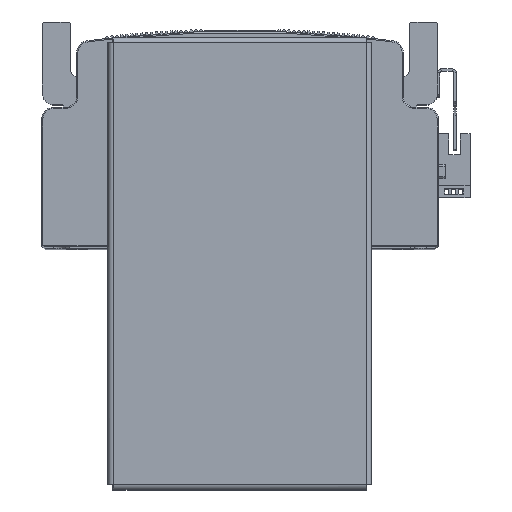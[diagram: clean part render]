
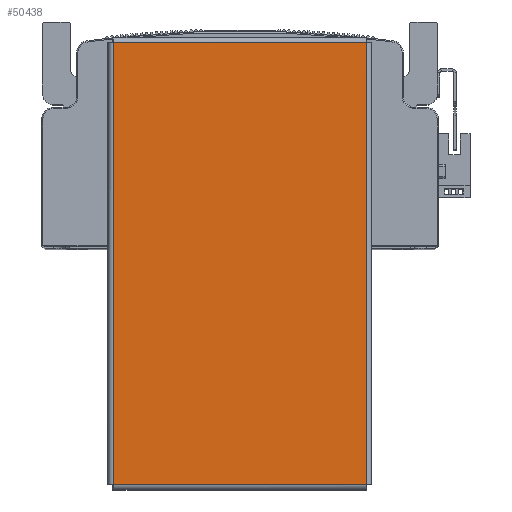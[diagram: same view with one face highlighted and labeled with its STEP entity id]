
A CAD part, top view. The second image highlights one B-rep face of the part: STEP entity #50438.
In plain terms, the highlighted planar face has unit normal (0, 0, 1) as drawn and (0, -1, 0) by its records, which use the part's own axes.
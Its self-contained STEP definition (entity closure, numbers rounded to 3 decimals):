
#9720 = AXIS2_PLACEMENT_3D ( 'NONE', #16411, #16436, #16414 ) ;
#11081 = LINE ( 'NONE', #19211, #11117 ) ;
#11089 = VECTOR ( 'NONE', #19171, 1000. ) ;
#11117 = VECTOR ( 'NONE', #19215, 1000. ) ;
#11131 = VECTOR ( 'NONE', #19185, 1000. ) ;
#11143 = LINE ( 'NONE', #19184, #11131 ) ;
#11161 = LINE ( 'NONE', #19205, #11089 ) ;
#14980 = LINE ( 'NONE', #19109, #15181 ) ;
#15181 = VECTOR ( 'NONE', #19113, 1000. ) ;
#16410 = PLANE ( 'NONE',  #9720 ) ;
#16411 = CARTESIAN_POINT ( 'NONE',  ( 0., -1.5, 0. ) ) ;
#16414 = DIRECTION ( 'NONE',  ( 0., 0., 1. ) ) ;
#16436 = DIRECTION ( 'NONE',  ( 0., 1., 0. ) ) ;
#17357 = EDGE_CURVE ( 'NONE', #47033, #46954, #14980, .T. ) ;
#17387 = EDGE_CURVE ( 'NONE', #46954, #47001, #11161, .T. ) ;
#17390 = EDGE_CURVE ( 'NONE', #47001, #47014, #11081, .T. ) ;
#17396 = EDGE_CURVE ( 'NONE', #47014, #47033, #11143, .T. ) ;
#18307 = ORIENTED_EDGE ( 'NONE', *, *, #17357, .T. ) ;
#18308 = ORIENTED_EDGE ( 'NONE', *, *, #17387, .T. ) ;
#18317 = ORIENTED_EDGE ( 'NONE', *, *, #17396, .T. ) ;
#18344 = ORIENTED_EDGE ( 'NONE', *, *, #17390, .T. ) ;
#19109 = CARTESIAN_POINT ( 'NONE',  ( 94.763, -1.5, -54.393 ) ) ;
#19113 = DIRECTION ( 'NONE',  ( 0., 0., 1. ) ) ;
#19171 = DIRECTION ( 'NONE',  ( -1., 0., 0. ) ) ;
#19184 = CARTESIAN_POINT ( 'NONE',  ( -94.793, -1.5, -54.363 ) ) ;
#19185 = DIRECTION ( 'NONE',  ( 1., 0., 0. ) ) ;
#19205 = CARTESIAN_POINT ( 'NONE',  ( 94.793, -1.5, 54.363 ) ) ;
#19211 = CARTESIAN_POINT ( 'NONE',  ( -94.763, -1.5, 54.393 ) ) ;
#19215 = DIRECTION ( 'NONE',  ( 0., 0., -1. ) ) ;
#22872 = FACE_OUTER_BOUND ( 'NONE', #29301, .T. ) ;
#29301 = EDGE_LOOP ( 'NONE', ( #18308, #18344, #18317, #18307 ) ) ;
#46954 = VERTEX_POINT ( 'NONE', #52990 ) ;
#47001 = VERTEX_POINT ( 'NONE', #53012 ) ;
#47014 = VERTEX_POINT ( 'NONE', #52988 ) ;
#47033 = VERTEX_POINT ( 'NONE', #53047 ) ;
#50438 = ADVANCED_FACE ( 'NONE', ( #22872 ), #16410, .F. ) ;
#52988 = CARTESIAN_POINT ( 'NONE',  ( -94.763, -1.5, -54.363 ) ) ;
#52990 = CARTESIAN_POINT ( 'NONE',  ( 94.763, -1.5, 54.363 ) ) ;
#53012 = CARTESIAN_POINT ( 'NONE',  ( -94.763, -1.5, 54.363 ) ) ;
#53047 = CARTESIAN_POINT ( 'NONE',  ( 94.763, -1.5, -54.363 ) ) ;
